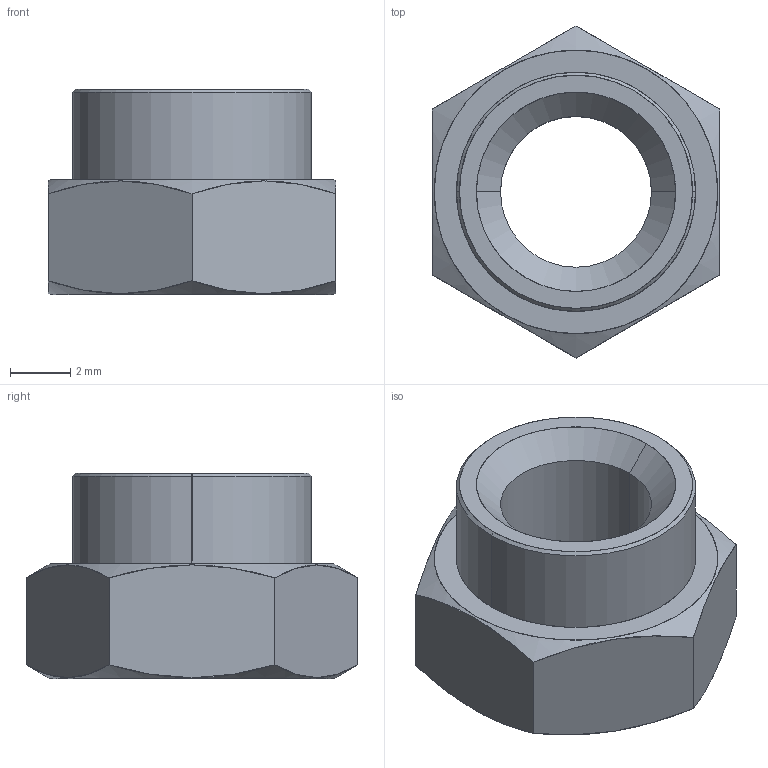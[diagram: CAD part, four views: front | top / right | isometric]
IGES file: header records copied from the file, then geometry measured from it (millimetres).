
Start section: SolidWorks IGES file using analytic representation for surfaces
Global section: file name: C:\Users\liam_\OneDrive\Desktop\Work\Mat Davis Pending 20181125\automotion\P SERIES\P0827.ZP_v2\P0827.ZP_v2_20181231_IGES\P0827.050-12G-ZP.igs; native system: SolidWorks 2017; preprocessor: SolidWorks 2017; author: liam_; date: 181231.110626; units: millimetre
Bounding box: 9.52 x 10.99 x 6.81 mm (x, y, z)
Surface area: 401.2 mm2 (no closed solid volume)
Topology: 0 solids, 0 shells, 23 faces, 376 edges, 376 vertices
Faces by surface type: revolution 14, bspline 9
